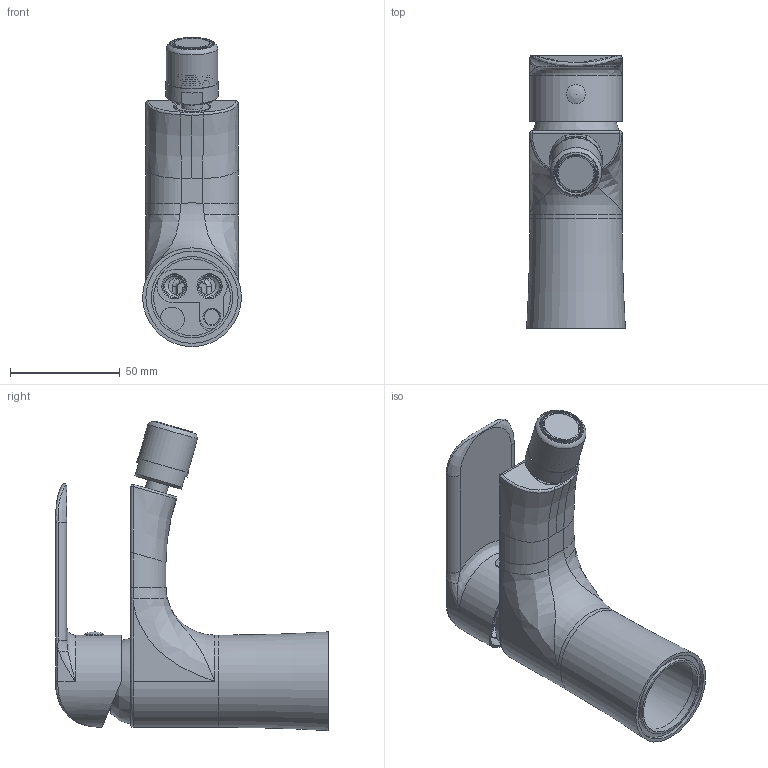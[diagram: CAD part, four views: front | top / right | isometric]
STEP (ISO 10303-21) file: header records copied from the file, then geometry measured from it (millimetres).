
FILE_DESCRIPTION(/* description */ (''),/* implementation_level */ '2;1');
FILE_NAME(/* name */ 'D:\Omnires\Export_Omnires\rys_step\5901867779472_stp.stp',/* time_stamp */ '2020-07-27T15:21:13+02:00',/* author */ (''),/* organization */ (''),/* preprocessor_version */ 'ST-DEVELOPER v18.1',/* originating_system */ 'Autodesk Inventor 2020',/* authorisation */ '');
FILE_SCHEMA (('AUTOMOTIVE_DESIGN { 1 0 10303 214 3 1 1 }'));
Length unit declared in the file: millimetre
Products named in the file (1): 5901867779472_dwg
Bounding box: 45 x 124.3 x 140.9 mm (x, y, z)
Surface area: 73158.9 mm2 (no closed solid volume)
Topology: 0 solids, 8 shells, 350 faces, 897 edges, 590 vertices
Faces by surface type: plane 113, cylinder 110, bspline 67, cone 32, torus 17, sphere 11
Full cylindrical faces by diameter (mm): 4 x1, 5.5 x2, 6.7 x1, 7 x2, 7.5 x2, 8 x2, 8.718 x1, 9 x2, 10 x2, 10.5 x2, 15 x3, 15.8 x1, 16 x2, 16.2 x1, 17.4 x1, 17.6 x1, 17.8 x1, 18 x1, 18.9 x1, 19.5 x1, 20 x3, 20.6 x1, 21 x5, 22 x1, 23.5 x1, 24 x1, 28 x1, 30.8 x4, 35 x1, 35.2 x2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
Entity records: 25709 total; most frequent: CARTESIAN_POINT 17119, ORIENTED_EDGE 1784, DIRECTION 1607, EDGE_CURVE 892, AXIS2_PLACEMENT_3D 663, VERTEX_POINT 590, EDGE_LOOP 408, CIRCLE 353
